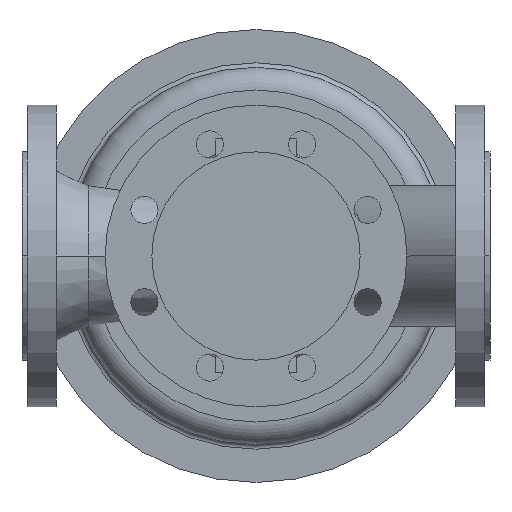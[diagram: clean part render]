
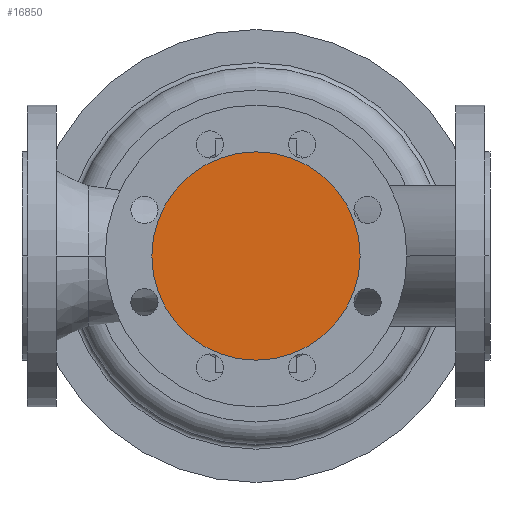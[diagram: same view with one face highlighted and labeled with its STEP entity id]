
A CAD part, front view. The second image highlights one B-rep face of the part: STEP entity #16850.
In plain terms, the highlighted planar face has unit normal (0, -1, 0).
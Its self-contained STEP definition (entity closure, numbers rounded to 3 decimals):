
#4610=CARTESIAN_POINT('',(224.,-130.,0.));
#4620=VERTEX_POINT('',#4610);
#4650=CARTESIAN_POINT('',(155.,-130.,0.));
#4660=DIRECTION('',(0.,1.,0.));
#4670=DIRECTION('',(1.,0.,0.));
#4680=AXIS2_PLACEMENT_3D('',#4650,#4660,#4670);
#4690=CIRCLE('',#4680,69.);
#4700=CARTESIAN_POINT('',(86.,-130.,0.));
#4710=VERTEX_POINT('',#4700);
#4720=EDGE_CURVE('',#4710,#4620,#4690,.T.);
#16750=CARTESIAN_POINT('',(189.5,-130.,0.));
#16760=DIRECTION('',(0.,-1.,0.));
#16770=DIRECTION('',(-1.,0.,0.));
#16780=AXIS2_PLACEMENT_3D('',#16750,#16760,#16770);
#16790=PLANE('',#16780);
#16800=EDGE_CURVE('',#4620,#4710,#4690,.T.);
#16810=ORIENTED_EDGE('',*,*,#16800,.F.);
#16820=ORIENTED_EDGE('',*,*,#4720,.F.);
#16830=EDGE_LOOP('',(#16820,#16810));
#16840=FACE_OUTER_BOUND('',#16830,.T.);
#16850=ADVANCED_FACE('',(#16840),#16790,.T.);
